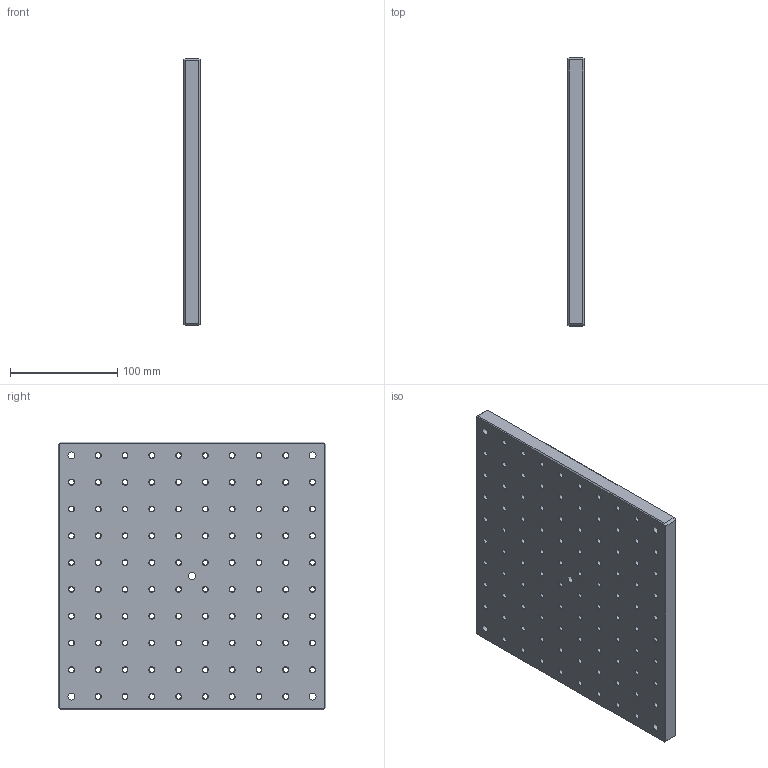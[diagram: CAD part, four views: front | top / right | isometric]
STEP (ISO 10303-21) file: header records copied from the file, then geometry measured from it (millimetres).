
FILE_DESCRIPTION(/* description */ (''),/* implementation_level */ '2;1');
FILE_NAME(/* name */ 'U:\KONSTRUKTORIAI\DOKUMENTACIJA\1\1B-A\Inventor\1B-A-25-25-015\step\1B-A-25-25-015.stp',/* time_stamp */ '2016-11-24T10:47:12+02:00',/* author */ ('dsgn31'),/* organization */ (''),/* preprocessor_version */ 'ST-DEVELOPER v15.2',/* originating_system */ 'Autodesk Inventor 2014',/* authorisation */ '');
FILE_SCHEMA (('AUTOMOTIVE_DESIGN { 1 0 10303 214 3 1 1 }'));
Length unit declared in the file: millimetre
Products named in the file (1): 1B-A-25-25-015.01
Bounding box: 15 x 250 x 250 mm (x, y, z)
Volume: 903948.3 mm3; surface area: 158617.5 mm2
Topology: 1 solids, 1 shells, 321 faces, 838 edges, 524 vertices
Faces by surface type: cone 192, cylinder 106, plane 23
Full cylindrical faces by diameter (mm): 4.917 x96, 6.5 x5, 11 x5
Entity records: 7975 total; most frequent: DIRECTION 1492, CARTESIAN_POINT 1194, ORIENTED_EDGE 888, EDGE_LOOP 826, AXIS2_PLACEMENT_3D 726, FACE_BOUND 507, EDGE_CURVE 444, VERTEX_POINT 428
